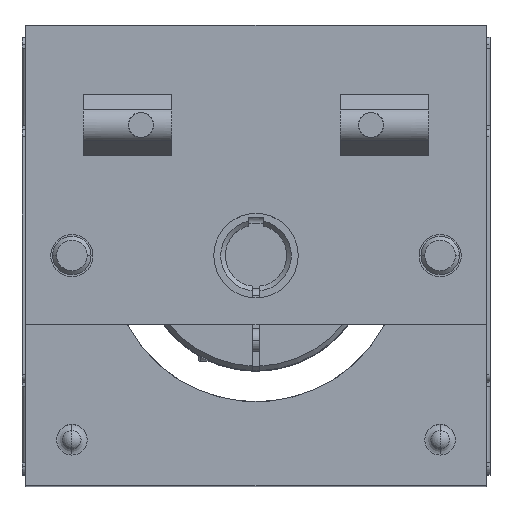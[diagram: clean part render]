
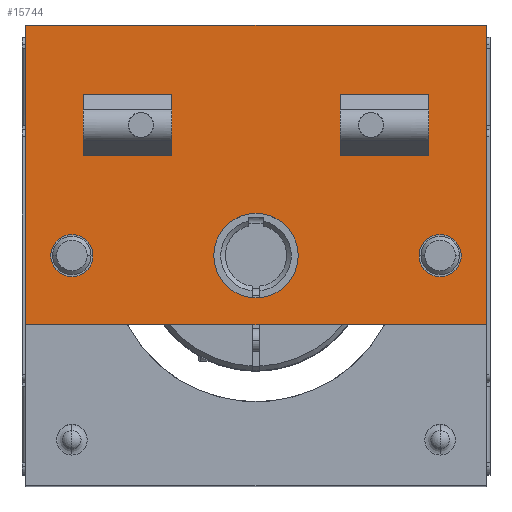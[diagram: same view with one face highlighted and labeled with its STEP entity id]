
A CAD part, top view. The second image highlights one B-rep face of the part: STEP entity #15744.
In plain terms, the highlighted planar face has unit normal (0, 0, 1).
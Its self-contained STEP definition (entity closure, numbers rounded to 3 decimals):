
#481=DIRECTION('',(0.,1.,0.));
#482=VECTOR('',#481,39.);
#483=CARTESIAN_POINT('',(-30.,-9.,64.));
#484=LINE('',#483,#482);
#783=DIRECTION('',(-1.,0.,0.));
#784=VECTOR('',#783,60.);
#785=CARTESIAN_POINT('',(30.,30.,64.));
#786=LINE('',#785,#784);
#811=DIRECTION('',(0.,1.,0.));
#812=VECTOR('',#811,39.);
#813=CARTESIAN_POINT('',(30.,-9.,64.));
#814=LINE('',#813,#812);
#5460=DIRECTION('',(-1.,0.,0.));
#5461=VECTOR('',#5460,60.);
#5462=CARTESIAN_POINT('',(30.,-9.,64.));
#5463=LINE('',#5462,#5461);
#5467=CARTESIAN_POINT('',(0.,0.,64.));
#5468=DIRECTION('',(0.,0.,1.));
#5469=DIRECTION('',(-1.,0.,0.));
#5470=AXIS2_PLACEMENT_3D('',#5467,#5468,#5469);
#5475=CARTESIAN_POINT('',(0.,0.,64.));
#5476=DIRECTION('',(0.,0.,1.));
#5477=DIRECTION('',(1.,0.,0.));
#5478=AXIS2_PLACEMENT_3D('',#5475,#5476,#5477);
#5483=CARTESIAN_POINT('',(-24.,0.,64.));
#5484=DIRECTION('',(0.,0.,-1.));
#5485=DIRECTION('',(1.,0.,0.));
#5486=AXIS2_PLACEMENT_3D('',#5483,#5484,#5485);
#5491=CARTESIAN_POINT('',(-24.,0.,64.));
#5492=DIRECTION('',(0.,0.,-1.));
#5493=DIRECTION('',(-1.,0.,0.));
#5494=AXIS2_PLACEMENT_3D('',#5491,#5492,#5493);
#5499=CARTESIAN_POINT('',(24.,0.,64.));
#5500=DIRECTION('',(0.,0.,-1.));
#5501=DIRECTION('',(1.,0.,0.));
#5502=AXIS2_PLACEMENT_3D('',#5499,#5500,#5501);
#5507=CARTESIAN_POINT('',(24.,0.,64.));
#5508=DIRECTION('',(0.,0.,-1.));
#5509=DIRECTION('',(-1.,0.,0.));
#5510=AXIS2_PLACEMENT_3D('',#5507,#5508,#5509);
#5515=CARTESIAN_POINT('',(15.,17.,64.));
#5516=DIRECTION('',(0.,0.,1.));
#5517=DIRECTION('',(-1.,0.,0.));
#5518=AXIS2_PLACEMENT_3D('',#5515,#5516,#5517);
#5523=CARTESIAN_POINT('',(15.,17.,64.));
#5524=DIRECTION('',(0.,0.,1.));
#5525=DIRECTION('',(1.,0.,0.));
#5526=AXIS2_PLACEMENT_3D('',#5523,#5524,#5525);
#5531=CARTESIAN_POINT('',(-15.,17.,64.));
#5532=DIRECTION('',(0.,0.,1.));
#5533=DIRECTION('',(-1.,0.,0.));
#5534=AXIS2_PLACEMENT_3D('',#5531,#5532,#5533);
#5539=CARTESIAN_POINT('',(-15.,17.,64.));
#5540=DIRECTION('',(0.,0.,1.));
#5541=DIRECTION('',(1.,0.,0.));
#5542=AXIS2_PLACEMENT_3D('',#5539,#5540,#5541);
#8502=CARTESIAN_POINT('',(30.,-9.,64.));
#8503=CARTESIAN_POINT('',(30.,30.,64.));
#8504=VERTEX_POINT('',#8502);
#8505=VERTEX_POINT('',#8503);
#8506=CARTESIAN_POINT('',(-30.,-9.,64.));
#8507=CARTESIAN_POINT('',(-30.,30.,64.));
#8508=VERTEX_POINT('',#8506);
#8509=VERTEX_POINT('',#8507);
#8510=CARTESIAN_POINT('',(-5.5,0.,64.));
#8511=CARTESIAN_POINT('',(5.5,0.,64.));
#8512=VERTEX_POINT('',#8510);
#8513=VERTEX_POINT('',#8511);
#8518=CARTESIAN_POINT('',(-21.25,0.,64.));
#8519=CARTESIAN_POINT('',(-26.75,0.,64.));
#8520=VERTEX_POINT('',#8518);
#8521=VERTEX_POINT('',#8519);
#8522=CARTESIAN_POINT('',(26.75,0.,64.));
#8523=CARTESIAN_POINT('',(21.25,0.,64.));
#8524=VERTEX_POINT('',#8522);
#8525=VERTEX_POINT('',#8523);
#8526=CARTESIAN_POINT('',(12.25,17.,64.));
#8527=CARTESIAN_POINT('',(17.75,17.,64.));
#8528=VERTEX_POINT('',#8526);
#8529=VERTEX_POINT('',#8527);
#8530=CARTESIAN_POINT('',(-17.75,17.,64.));
#8531=CARTESIAN_POINT('',(-12.25,17.,64.));
#8532=VERTEX_POINT('',#8530);
#8533=VERTEX_POINT('',#8531);
#15704=CARTESIAN_POINT('',(30.,-9.,64.));
#15705=DIRECTION('',(0.,0.,1.));
#15706=DIRECTION('',(0.,1.,0.));
#15707=AXIS2_PLACEMENT_3D('',#15704,#15705,#15706);
#15708=PLANE('',#15707);
#15709=ORIENTED_EDGE('',*,*,#10115,.F.);
#15710=ORIENTED_EDGE('',*,*,#10251,.T.);
#15711=ORIENTED_EDGE('',*,*,#9992,.T.);
#15712=ORIENTED_EDGE('',*,*,#10091,.F.);
#15713=EDGE_LOOP('',(#15709,#15710,#15711,#15712));
#15714=FACE_OUTER_BOUND('',#15713,.F.);
#15715=ORIENTED_EDGE('',*,*,#15694,.T.);
#15717=ORIENTED_EDGE('',*,*,#15716,.T.);
#15718=EDGE_LOOP('',(#15715,#15717));
#15719=FACE_BOUND('',#15718,.F.);
#15721=ORIENTED_EDGE('',*,*,#15720,.F.);
#15723=ORIENTED_EDGE('',*,*,#15722,.F.);
#15724=EDGE_LOOP('',(#15721,#15723));
#15725=FACE_BOUND('',#15724,.F.);
#15727=ORIENTED_EDGE('',*,*,#15726,.F.);
#15729=ORIENTED_EDGE('',*,*,#15728,.F.);
#15730=EDGE_LOOP('',(#15727,#15729));
#15731=FACE_BOUND('',#15730,.F.);
#15733=ORIENTED_EDGE('',*,*,#15732,.T.);
#15735=ORIENTED_EDGE('',*,*,#15734,.T.);
#15736=EDGE_LOOP('',(#15733,#15735));
#15737=FACE_BOUND('',#15736,.F.);
#15739=ORIENTED_EDGE('',*,*,#15738,.T.);
#15741=ORIENTED_EDGE('',*,*,#15740,.T.);
#15742=EDGE_LOOP('',(#15739,#15741));
#15743=FACE_BOUND('',#15742,.F.);
#15744=ADVANCED_FACE('',(#15714,#15719,#15725,#15731,#15737,#15743),#15708,.T.);
#5471=CIRCLE('',#5470,5.5);
#5479=CIRCLE('',#5478,5.5);
#5487=CIRCLE('',#5486,2.75);
#5495=CIRCLE('',#5494,2.75);
#5503=CIRCLE('',#5502,2.75);
#5511=CIRCLE('',#5510,2.75);
#5519=CIRCLE('',#5518,2.75);
#5527=CIRCLE('',#5526,2.75);
#5535=CIRCLE('',#5534,2.75);
#5543=CIRCLE('',#5542,2.75);
#9992=EDGE_CURVE('',#8508,#8509,#484,.T.);
#10091=EDGE_CURVE('',#8505,#8509,#786,.T.);
#10115=EDGE_CURVE('',#8504,#8505,#814,.T.);
#10251=EDGE_CURVE('',#8504,#8508,#5463,.T.);
#15694=EDGE_CURVE('',#8512,#8513,#5471,.T.);
#15716=EDGE_CURVE('',#8513,#8512,#5479,.T.);
#15720=EDGE_CURVE('',#8520,#8521,#5487,.T.);
#15722=EDGE_CURVE('',#8521,#8520,#5495,.T.);
#15726=EDGE_CURVE('',#8524,#8525,#5503,.T.);
#15728=EDGE_CURVE('',#8525,#8524,#5511,.T.);
#15732=EDGE_CURVE('',#8528,#8529,#5519,.T.);
#15734=EDGE_CURVE('',#8529,#8528,#5527,.T.);
#15738=EDGE_CURVE('',#8532,#8533,#5535,.T.);
#15740=EDGE_CURVE('',#8533,#8532,#5543,.T.);
